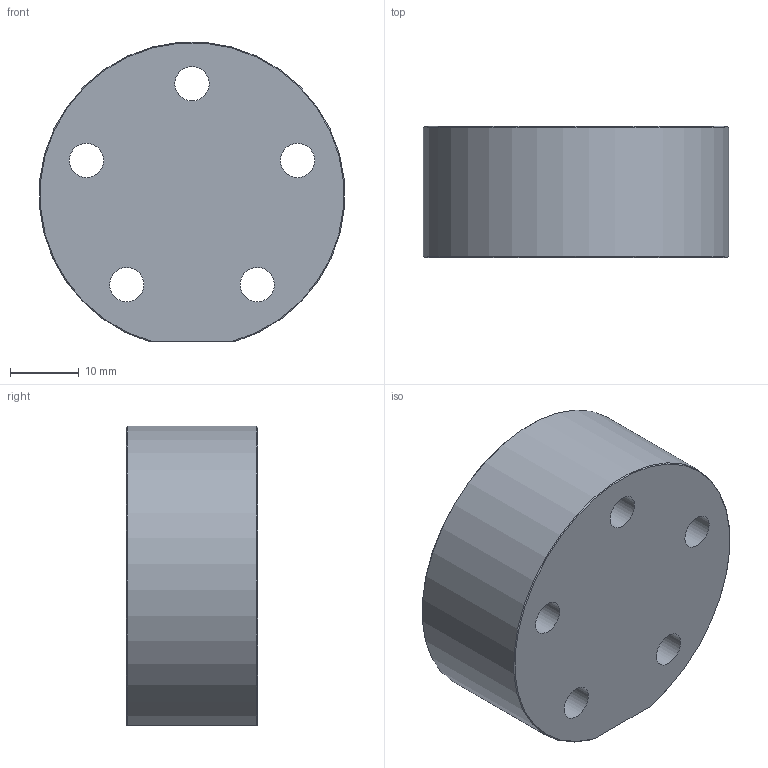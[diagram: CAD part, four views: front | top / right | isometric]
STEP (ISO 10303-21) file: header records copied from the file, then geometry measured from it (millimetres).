
FILE_DESCRIPTION(/* description */ (''),/* implementation_level */ '2;1');
FILE_NAME(/* name */ 'Outlet Port.step',/* time_stamp */ '2026-05-22T17:07:52-04:00',/* author */ (''),/* organization */ (''),/* preprocessor_version */ 'ST-DEVELOPER v20.1',/* originating_system */ 'Autodesk Translation Framework v15.8.0.0',/* authorisation */ '');
FILE_SCHEMA (('AUTOMOTIVE_DESIGN { 1 0 10303 214 3 1 1 }'));
Length unit declared in the file: inch
Products named in the file (1): Outlet Port
Bounding box: 44.33 x 19.05 x 43.48 mm (x, y, z)
Volume: 23612.6 mm3; surface area: 8217.1 mm2
Topology: 1 solids, 1 shells, 20 faces, 46 edges, 31 vertices
Faces by surface type: cylinder 10, plane 7, cone 3
Full cylindrical faces by diameter (mm): 4.978 x5, 10.719 x1, 13.716 x1, 18.669 x1, 23.901 x1
Entity records: 672 total; most frequent: CARTESIAN_POINT 150, DIRECTION 103, ORIENTED_EDGE 92, EDGE_CURVE 46, AXIS2_PLACEMENT_3D 44, EDGE_LOOP 35, VERTEX_POINT 31, CIRCLE 23
